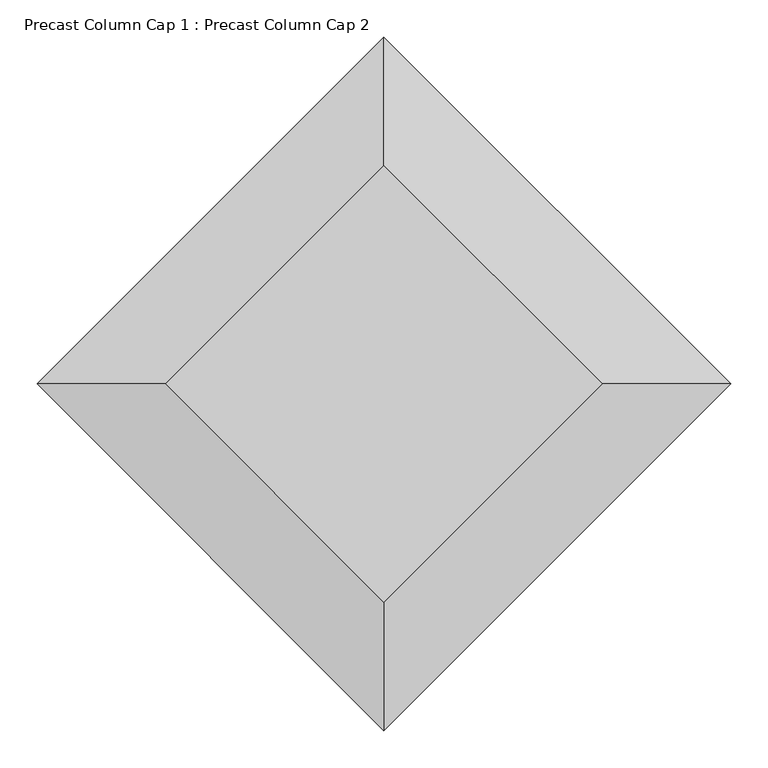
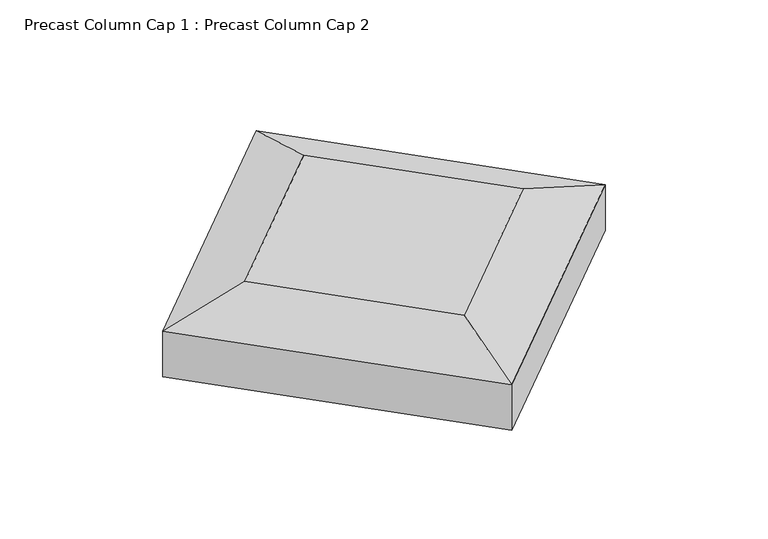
"""IFC4 building model written with IfcOpenShell, lengths in millimetres: proxy geometry, Precast Column Cap 1 : Precast Column Cap 2."""

from ifc_helpers import new_model, si_unit, origin, place, context, project, spatial, faceted_brep, source, transform, mapped, element, save


def precast_column_cap_1_precast_column_cap_2_879402a2(model_context):
    return source(origin(), model_context, "Body", "Brep", [
        faceted_brep([(-18824.787304, -5347.0999163, 33680.4), (-18530.683916, -5641.2033042, 33680.4), (-18236.5805281, -5347.0999163, 33680.4), (-18530.683916, -5052.9965283, 33680.4), (-18997.6572343, -5347.0999163, 33629.6), (-18530.683916, -5814.0732346, 33629.6), (-18063.7105977, -5347.0999163, 33629.6), (-18530.683916, -4880.126598, 33629.6), (-18997.6572343, -5347.0999163, 33528.0), (-18530.683916, -4880.126598, 33528.0), (-18063.7105977, -5347.0999163, 33528.0), (-18530.683916, -5814.0732346, 33528.0)], [[[0, 1, 2, 3]], [[1, 0, 4, 5]], [[2, 1, 5, 6]], [[3, 2, 6, 7]], [[0, 3, 7, 4]], [[8, 9, 10, 11]], [[8, 11, 5, 4]], [[11, 10, 6, 5]], [[10, 9, 7, 6]], [[9, 8, 4, 7]]]),
    ])


if __name__ == "__main__":
    model = new_model("IFC4")
    model_context = context("Model", 3, world=origin())
    ifc_project = project(units=[si_unit("LENGTHUNIT", "METRE", prefix="MILLI")], contexts=[model_context])
    site = spatial("IfcSite", under=ifc_project)
    building = spatial("IfcBuilding", under=site)
    placement = place(None, origin())
    precast_column_cap_1_precast_column_cap_2_shape = precast_column_cap_1_precast_column_cap_2_879402a2(model_context)
    element("IfcBuildingElementProxy", 1, Name="Precast Column Cap 1 : Precast Column Cap 2", ObjectType="Precast Column Cap 1 : Precast Column Cap 2", at=placement, inside=building, context=model_context, shape_type="MappedRepresentation", body=[
        mapped(precast_column_cap_1_precast_column_cap_2_shape, transform((0.0, 0.0, 0.0), x_axis=(1.0, 0.0, 0.0), y_axis=(0.0, 1.0, 0.0), z_axis=(0.0, 0.0, 1.0))),
    ])
    save(model, "model.ifc")
